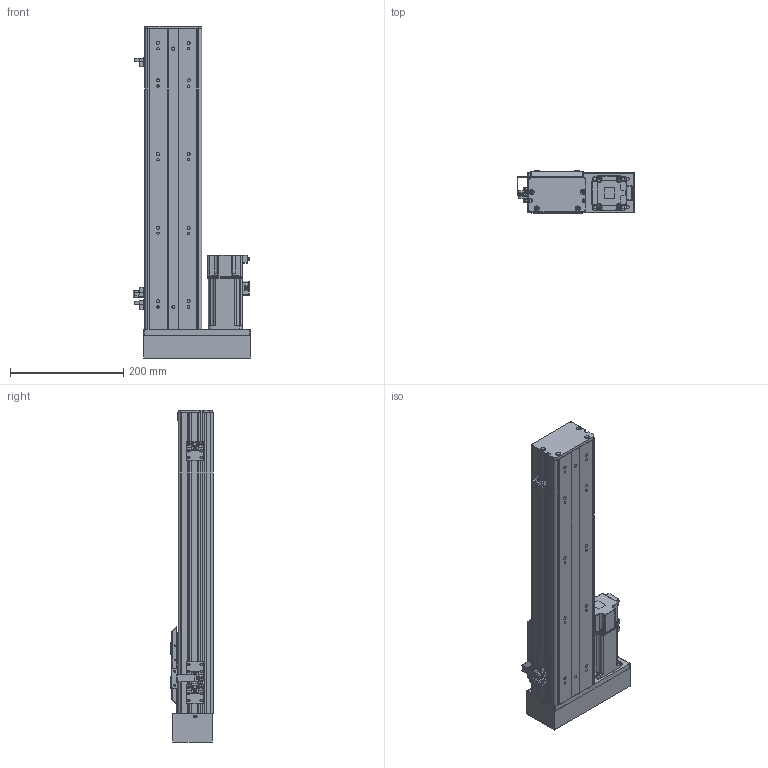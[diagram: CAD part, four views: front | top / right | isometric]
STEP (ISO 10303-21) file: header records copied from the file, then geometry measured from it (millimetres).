
FILE_DESCRIPTION (( 'STEP AP203' ), '1' );
FILE_NAME ('BOSW100-350-1610-1P-LM-M400W-O-S3（方程式2016）.step', '2020-10-10T06:53:52', ( '' ), ( '' ), 'SwSTEP 2.0', 'SolidWorks 2016', '' );
FILE_SCHEMA (( 'CONFIG_CONTROL_DESIGN' ));
Length unit declared in the file: millimetre
Products named in the file (14): 俋境嫖覜嘐隅啣; S400W(SMA-L040); BOSW-100-綴裔啣; 放大器内置U型微型光电传感器PM-L65; boS-100-LM&RM-三菱M400W马达板-宽轨; BOSW&TW-100-俋离覜茼え; BOSW&TW-100-1P-賑雄釱欶; BOSW-100-1P-DM-宽轨-侧板-350客户图纸; BOSW&TW-100-詩湍揤沭(陔賦凳); 新结构AIMSW-100-1P-宽&高轨共用-滑动座上组件; BOSW100-350-1610-1P-LM-M400W-O-S3（方程式2016）; AIMS(W)-100-LM&RM-肮祭謫欶; BOSW-100-1P-DM-宽轨-钢带-350客户图纸; BOSW-100-1P-DM-350諦誧芞
Assembly tree (19 placements, depth 2):
  BOSW100-350-1610-1P-LM-M400W-O-S3（方程式2016）
    BOSW-100-1P-DM-350諦誧芞
    BOSW-100-綴裔啣
    新结构AIMSW-100-1P-宽&高轨共用-滑动座上组件
    S400W(SMA-L040)
    BOSW&TW-100-詩湍揤沭(陔賦凳)  x2
    BOSW&TW-100-1P-賑雄釱欶
    BOSW&TW-100-俋离覜茼え
    俋境嫖覜嘐隅啣  x3
    放大器内置U型微型光电传感器PM-L65  x3
    BOSW-100-1P-DM-宽轨-侧板-350客户图纸  x2
    BOSW-100-1P-DM-宽轨-钢带-350客户图纸
    AIMS(W)-100-LM&RM-肮祭謫欶
    boS-100-LM&RM-三菱M400W马达板-宽轨
Bounding box: 207.9 x 75 x 586 mm (x, y, z)
Volume: 1445430.8 mm3; surface area: 705163.3 mm2
Topology: 19 solids, 20 shells, 2507 faces, 6609 edges, 4215 vertices
Faces by surface type: plane 1239, cylinder 782, bspline 271, cone 167, torus 36, sphere 12
Entity records: 68576 total; most frequent: CARTESIAN_POINT 20626, ORIENTED_EDGE 9758, DIRECTION 9435, EDGE_CURVE 4879, AXIS2_PLACEMENT_3D 3335, VERTEX_POINT 3117, VECTOR 2765, LINE 2765
